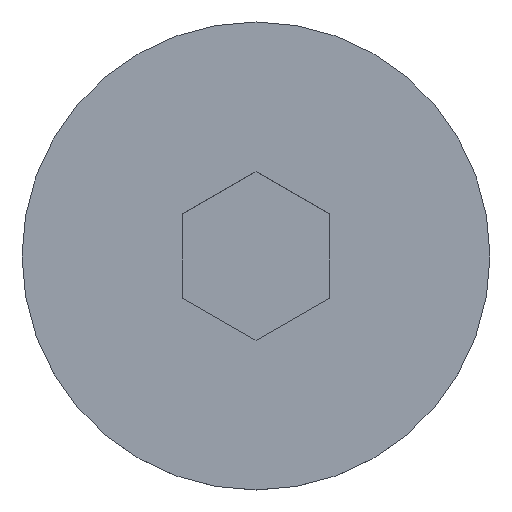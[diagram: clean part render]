
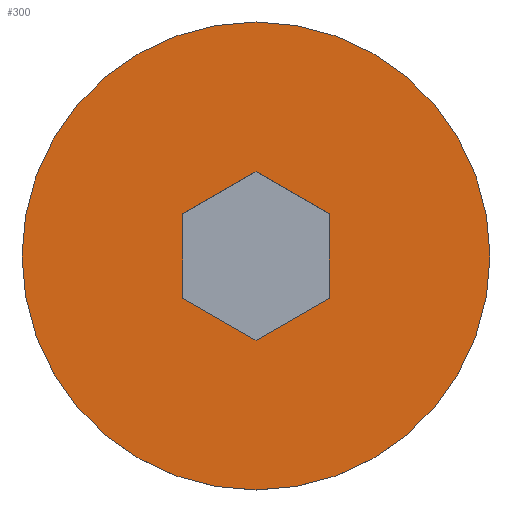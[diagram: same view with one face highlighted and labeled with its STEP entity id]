
A CAD part, top view. The second image highlights one B-rep face of the part: STEP entity #300.
In plain terms, the highlighted planar face has unit normal (0, 0, 1).
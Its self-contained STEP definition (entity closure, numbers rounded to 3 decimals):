
#9 = EDGE_CURVE ( 'NONE', #421, #73, #170, .T. ) ;
#17 = DIRECTION ( 'NONE',  ( -1., 0., 0. ) ) ;
#41 = VECTOR ( 'NONE', #152, 1000. ) ;
#51 = ORIENTED_EDGE ( 'NONE', *, *, #9, .F. ) ;
#55 = EDGE_CURVE ( 'NONE', #141, #346, #178, .T. ) ;
#62 = DIRECTION ( 'NONE',  ( 0., 0., 1. ) ) ;
#66 = EDGE_LOOP ( 'NONE', ( #427, #374 ) ) ;
#70 = VECTOR ( 'NONE', #177, 1000. ) ;
#73 = VERTEX_POINT ( 'NONE', #220 ) ;
#86 = VECTOR ( 'NONE', #320, 1000. ) ;
#94 = PLANE ( 'NONE',  #405 ) ;
#108 = LINE ( 'NONE', #363, #364 ) ;
#111 = CARTESIAN_POINT ( 'NONE',  ( -3., -1.732, 5.22 ) ) ;
#114 = CARTESIAN_POINT ( 'NONE',  ( 0., 0., 5.22 ) ) ;
#116 = DIRECTION ( 'NONE',  ( -1., 0., 0. ) ) ;
#129 = LINE ( 'NONE', #227, #86 ) ;
#141 = VERTEX_POINT ( 'NONE', #312 ) ;
#147 = EDGE_CURVE ( 'NONE', #346, #141, #153, .T. ) ;
#152 = DIRECTION ( 'NONE',  ( -0.866, -0.5, 0. ) ) ;
#153 = CIRCLE ( 'NONE', #235, 9.61 ) ;
#170 = LINE ( 'NONE', #111, #70 ) ;
#171 = VERTEX_POINT ( 'NONE', #317 ) ;
#176 = EDGE_CURVE ( 'NONE', #171, #179, #425, .T. ) ;
#177 = DIRECTION ( 'NONE',  ( 0.866, -0.5, 0. ) ) ;
#178 = CIRCLE ( 'NONE', #444, 9.61 ) ;
#179 = VERTEX_POINT ( 'NONE', #401 ) ;
#181 = DIRECTION ( 'NONE',  ( 0., 0., -1. ) ) ;
#184 = CARTESIAN_POINT ( 'NONE',  ( 0., 3.464, 5.22 ) ) ;
#188 = EDGE_CURVE ( 'NONE', #316, #171, #108, .T. ) ;
#189 = EDGE_CURVE ( 'NONE', #73, #331, #129, .T. ) ;
#204 = FACE_OUTER_BOUND ( 'NONE', #66, .T. ) ;
#205 = ORIENTED_EDGE ( 'NONE', *, *, #188, .F. ) ;
#220 = CARTESIAN_POINT ( 'NONE',  ( 0., -3.464, 5.22 ) ) ;
#227 = CARTESIAN_POINT ( 'NONE',  ( 0., -3.464, 5.22 ) ) ;
#229 = LINE ( 'NONE', #296, #407 ) ;
#234 = DIRECTION ( 'NONE',  ( 0., -1., 0. ) ) ;
#235 = AXIS2_PLACEMENT_3D ( 'NONE', #438, #441, #17 ) ;
#263 = EDGE_CURVE ( 'NONE', #179, #421, #229, .T. ) ;
#289 = ORIENTED_EDGE ( 'NONE', *, *, #432, .F. ) ;
#296 = CARTESIAN_POINT ( 'NONE',  ( -3., 1.732, 5.22 ) ) ;
#300 = ADVANCED_FACE ( 'NONE', ( #411, #204 ), #94, .T. ) ;
#312 = CARTESIAN_POINT ( 'NONE',  ( 9.61, 0., 5.22 ) ) ;
#315 = ORIENTED_EDGE ( 'NONE', *, *, #263, .F. ) ;
#316 = VERTEX_POINT ( 'NONE', #336 ) ;
#317 = CARTESIAN_POINT ( 'NONE',  ( 0., 3.464, 5.22 ) ) ;
#320 = DIRECTION ( 'NONE',  ( 0.866, 0.5, 0. ) ) ;
#331 = VERTEX_POINT ( 'NONE', #372 ) ;
#332 = ORIENTED_EDGE ( 'NONE', *, *, #189, .F. ) ;
#333 = CARTESIAN_POINT ( 'NONE',  ( 3., -1.732, 5.22 ) ) ;
#335 = CARTESIAN_POINT ( 'NONE',  ( -9.61, 0., 5.22 ) ) ;
#336 = CARTESIAN_POINT ( 'NONE',  ( 3., 1.732, 5.22 ) ) ;
#342 = DIRECTION ( 'NONE',  ( 1., 0., 0. ) ) ;
#346 = VERTEX_POINT ( 'NONE', #386 ) ;
#353 = ORIENTED_EDGE ( 'NONE', *, *, #176, .F. ) ;
#363 = CARTESIAN_POINT ( 'NONE',  ( 3., 1.732, 5.22 ) ) ;
#364 = VECTOR ( 'NONE', #404, 1000. ) ;
#371 = DIRECTION ( 'NONE',  ( 0., 1., 0. ) ) ;
#372 = CARTESIAN_POINT ( 'NONE',  ( 3., -1.732, 5.22 ) ) ;
#374 = ORIENTED_EDGE ( 'NONE', *, *, #55, .F. ) ;
#386 = CARTESIAN_POINT ( 'NONE',  ( -9.61, 0., 5.22 ) ) ;
#387 = VECTOR ( 'NONE', #371, 1000. ) ;
#401 = CARTESIAN_POINT ( 'NONE',  ( -3., 1.732, 5.22 ) ) ;
#403 = CARTESIAN_POINT ( 'NONE',  ( -3., -1.732, 5.22 ) ) ;
#404 = DIRECTION ( 'NONE',  ( -0.866, 0.5, 0. ) ) ;
#405 = AXIS2_PLACEMENT_3D ( 'NONE', #335, #62, #342 ) ;
#407 = VECTOR ( 'NONE', #234, 1000. ) ;
#411 = FACE_BOUND ( 'NONE', #439, .T. ) ;
#421 = VERTEX_POINT ( 'NONE', #403 ) ;
#425 = LINE ( 'NONE', #184, #41 ) ;
#427 = ORIENTED_EDGE ( 'NONE', *, *, #147, .F. ) ;
#432 = EDGE_CURVE ( 'NONE', #331, #316, #445, .T. ) ;
#438 = CARTESIAN_POINT ( 'NONE',  ( 0., 0., 5.22 ) ) ;
#439 = EDGE_LOOP ( 'NONE', ( #205, #289, #332, #51, #315, #353 ) ) ;
#441 = DIRECTION ( 'NONE',  ( 0., 0., -1. ) ) ;
#444 = AXIS2_PLACEMENT_3D ( 'NONE', #114, #181, #116 ) ;
#445 = LINE ( 'NONE', #333, #387 ) ;
